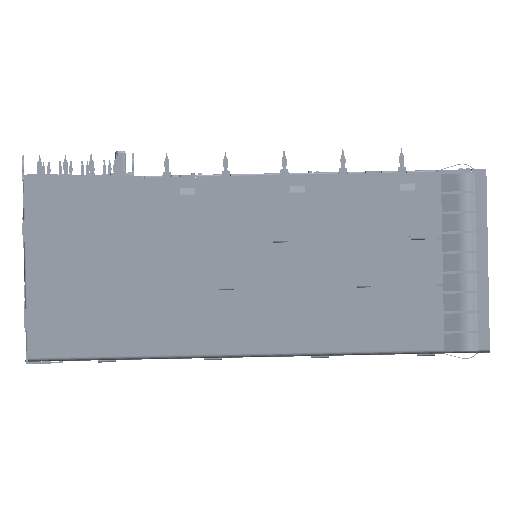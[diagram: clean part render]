
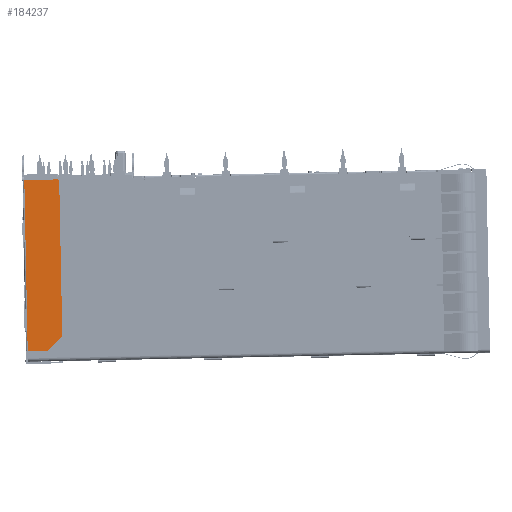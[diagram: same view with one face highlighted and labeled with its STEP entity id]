
A CAD part, left-side view. The second image highlights one B-rep face of the part: STEP entity #184237.
In plain terms, the highlighted planar face has unit normal (-1, 0, 0).
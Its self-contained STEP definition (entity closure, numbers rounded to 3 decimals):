
#68256=DIRECTION('',(0.,-0.02,-1.));
#68257=VECTOR('',#68256,2.8);
#68258=CARTESIAN_POINT('',(28.95,4.818,2.741));
#68259=LINE('',#68258,#68257);
#68264=DIRECTION('',(0.,-1.,0.02));
#68265=VECTOR('',#68264,4.5);
#68266=CARTESIAN_POINT('',(28.95,5.224,23.237));
#68267=LINE('',#68266,#68265);
#68268=CARTESIAN_POINT('',(28.95,0.72,23.076));
#68269=DIRECTION('',(1.,0.,0.));
#68270=DIRECTION('',(0.,0.02,1.));
#68271=AXIS2_PLACEMENT_3D('',#68268,#68269,#68270);
#68273=DIRECTION('',(0.,-0.02,-1.));
#68274=VECTOR('',#68273,20.946);
#68275=CARTESIAN_POINT('',(28.95,0.47,23.081));
#68276=LINE('',#68275,#68274);
#68277=CARTESIAN_POINT('',(28.95,0.306,2.134));
#68278=DIRECTION('',(1.,0.,0.));
#68279=DIRECTION('',(0.,-1.,0.02));
#68280=AXIS2_PLACEMENT_3D('',#68277,#68278,#68279);
#68282=DIRECTION('',(0.,0.693,-0.721));
#68283=VECTOR('',#68282,2.621);
#68284=CARTESIAN_POINT('',(28.95,0.125,1.961));
#68285=LINE('',#68284,#68283);
#68286=CARTESIAN_POINT('',(28.95,2.122,0.244));
#68287=DIRECTION('',(1.,0.,0.));
#68288=DIRECTION('',(0.,-0.721,-0.693));
#68289=AXIS2_PLACEMENT_3D('',#68286,#68287,#68288);
#68291=DIRECTION('',(0.,1.,-0.02));
#68292=VECTOR('',#68291,2.646);
#68293=CARTESIAN_POINT('',(28.95,2.117,-0.006));
#68294=LINE('',#68293,#68292);
#68295=DIRECTION('',(0.,-0.02,-1.));
#68296=VECTOR('',#68295,9.);
#68297=CARTESIAN_POINT('',(28.95,5.056,14.739));
#68298=LINE('',#68297,#68296);
#68312=DIRECTION('',(0.,-0.02,-1.));
#68313=VECTOR('',#68312,3.);
#68314=CARTESIAN_POINT('',(28.95,4.878,5.74));
#68315=LINE('',#68314,#68313);
#68354=DIRECTION('',(0.,-0.02,-1.));
#68355=VECTOR('',#68354,3.);
#68356=CARTESIAN_POINT('',(28.95,5.115,17.738));
#68357=LINE('',#68356,#68355);
#68379=DIRECTION('',(0.,-0.02,-1.));
#68380=VECTOR('',#68379,1.75);
#68381=CARTESIAN_POINT('',(28.95,5.15,19.488));
#68382=LINE('',#68381,#68380);
#68400=DIRECTION('',(0.,-0.02,
-1.));
#68401=VECTOR('',#68400,2.);
#68402=CARTESIAN_POINT('',(28.95,5.189,21.487));
#68403=LINE('',#68402,#68401);
#68425=DIRECTION('',(0.,-0.02,-1.));
#68426=VECTOR('',#68425,1.75);
#68427=CARTESIAN_POINT('',(28.95,5.224,23.237));
#68428=LINE('',#68427,#68426);
#72855=CARTESIAN_POINT('',(28.95,4.763,-0.058));
#72856=VERTEX_POINT('',#72855);
#72857=CARTESIAN_POINT('',(28.95,2.117,-0.006));
#72858=VERTEX_POINT('',#72857);
#78318=CARTESIAN_POINT('',(28.95,0.725,23.326));
#78319=VERTEX_POINT('',#78318);
#78320=CARTESIAN_POINT('',(28.95,5.224,23.237));
#78321=VERTEX_POINT('',#78320);
#78322=CARTESIAN_POINT('',(28.95,0.47,23.081));
#78323=VERTEX_POINT('',#78322);
#78324=CARTESIAN_POINT('',(28.95,5.056,14.739));
#78325=CARTESIAN_POINT('',(28.95,4.878,5.74));
#78326=VERTEX_POINT('',#78324);
#78327=VERTEX_POINT('',#78325);
#78328=CARTESIAN_POINT('',(28.95,5.115,17.738));
#78329=VERTEX_POINT('',#78328);
#78330=CARTESIAN_POINT('',(28.95,5.15,19.488));
#78331=VERTEX_POINT('',#78330);
#78332=CARTESIAN_POINT('',(28.95,5.189,21.487));
#78333=VERTEX_POINT('',#78332);
#78334=CARTESIAN_POINT('',(28.95,0.056,2.139));
#78335=VERTEX_POINT('',#78334);
#78336=CARTESIAN_POINT('',(28.95,0.125,1.961));
#78337=VERTEX_POINT('',#78336);
#78338=CARTESIAN_POINT('',(28.95,1.942,0.071));
#78339=VERTEX_POINT('',#78338);
#78340=CARTESIAN_POINT('',(28.95,4.818,2.741));
#78341=VERTEX_POINT('',#78340);
#184205=CARTESIAN_POINT('',(28.95,2.619,11.636));
#184206=DIRECTION('',(1.,0.,0.));
#184207=DIRECTION('',(0.,-1.,0.02));
#184208=AXIS2_PLACEMENT_3D('',#184205,#184206,#184207);
#184209=PLANE('',#184208);
#184211=ORIENTED_EDGE('',*,*,#184210,.F.);
#184213=ORIENTED_EDGE('',*,*,#184212,.F.);
#184215=ORIENTED_EDGE('',*,*,#184214,.F.);
#184217=ORIENTED_EDGE('',*,*,#184216,.F.);
#184219=ORIENTED_EDGE('',*,*,#184218,.F.);
#184220=ORIENTED_EDGE('',*,*,#94909,.T.);
#184222=ORIENTED_EDGE('',*,*,#184221,.T.);
#184224=ORIENTED_EDGE('',*,*,#184223,.T.);
#184226=ORIENTED_EDGE('',*,*,#184225,.T.);
#184228=ORIENTED_EDGE('',*,*,#184227,.T.);
#184230=ORIENTED_EDGE('',*,*,#184229,.T.);
#184231=ORIENTED_EDGE('',*,*,#184183,.T.);
#184232=ORIENTED_EDGE('',*,*,#184196,.F.);
#184234=ORIENTED_EDGE('',*,*,#184233,.F.);
#184235=EDGE_LOOP('',(#184211,#184213,#184215,#184217,#184219,#184220,#184222,
#184224,#184226,#184228,#184230,#184231,#184232,#184234));
#184236=FACE_OUTER_BOUND('',#184235,.F.);
#68272=CIRCLE('',#68271,0.25);
#68281=CIRCLE('',#68280,0.25);
#68290=CIRCLE('',#68289,0.25);
#94909=EDGE_CURVE('',#78321,#78319,#68267,.T.);
#184183=EDGE_CURVE('',#72858,#72856,#68294,.T.);
#184196=EDGE_CURVE('',#78341,#72856,#68259,.T.);
#184210=EDGE_CURVE('',#78326,#78327,#68298,.T.);
#184212=EDGE_CURVE('',#78329,#78326,#68357,.T.);
#184214=EDGE_CURVE('',#78331,#78329,#68382,.T.);
#184216=EDGE_CURVE('',#78333,#78331,#68403,.T.);
#184218=EDGE_CURVE('',#78321,#78333,#68428,.T.);
#184221=EDGE_CURVE('',#78319,#78323,#68272,.T.);
#184223=EDGE_CURVE('',#78323,#78335,#68276,.T.);
#184225=EDGE_CURVE('',#78335,#78337,#68281,.T.);
#184227=EDGE_CURVE('',#78337,#78339,#68285,.T.);
#184229=EDGE_CURVE('',#78339,#72858,#68290,.T.);
#184233=EDGE_CURVE('',#78327,#78341,#68315,.T.);
#184237=ADVANCED_FACE('',(#184236),#184209,.F.);
